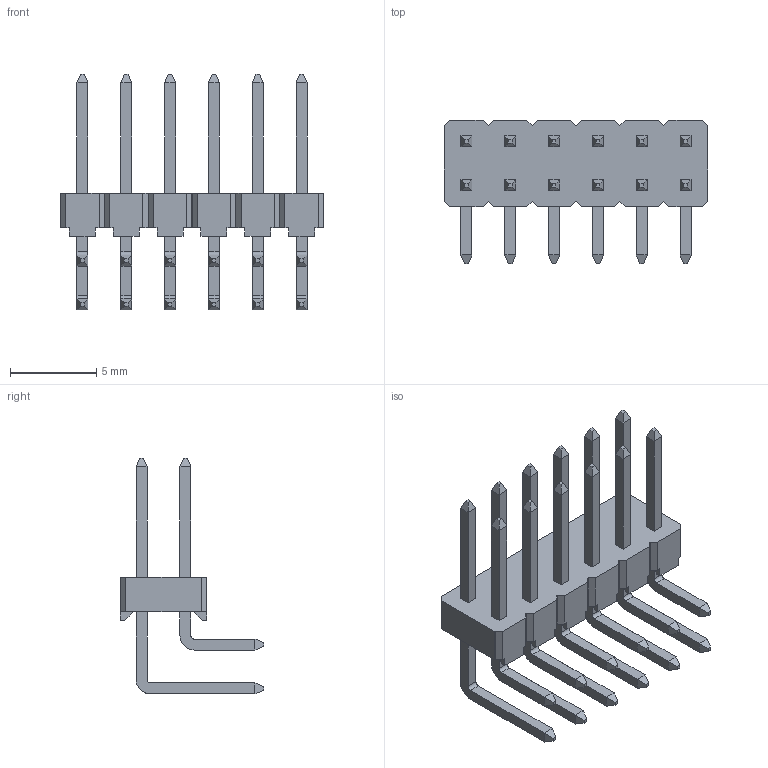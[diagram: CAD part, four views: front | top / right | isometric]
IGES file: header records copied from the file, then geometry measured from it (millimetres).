
Global section: file name: N:\GOLF_VI_2_54mm_UGII\961XXX-5X04-XX (TS-2182)\961212-5804-XX.igs; native system: NX V3.0; preprocessor: UGS NX IGES V4.0; date: 20070618.133628; units: millimetre
Bounding box: 15.24 x 8.3 x 13.66 mm (x, y, z)
Surface area: 713.6 mm2 (no closed solid volume)
Topology: 0 solids, 0 shells, 366 faces, 1873 edges, 1873 vertices
Faces by surface type: bspline 366
